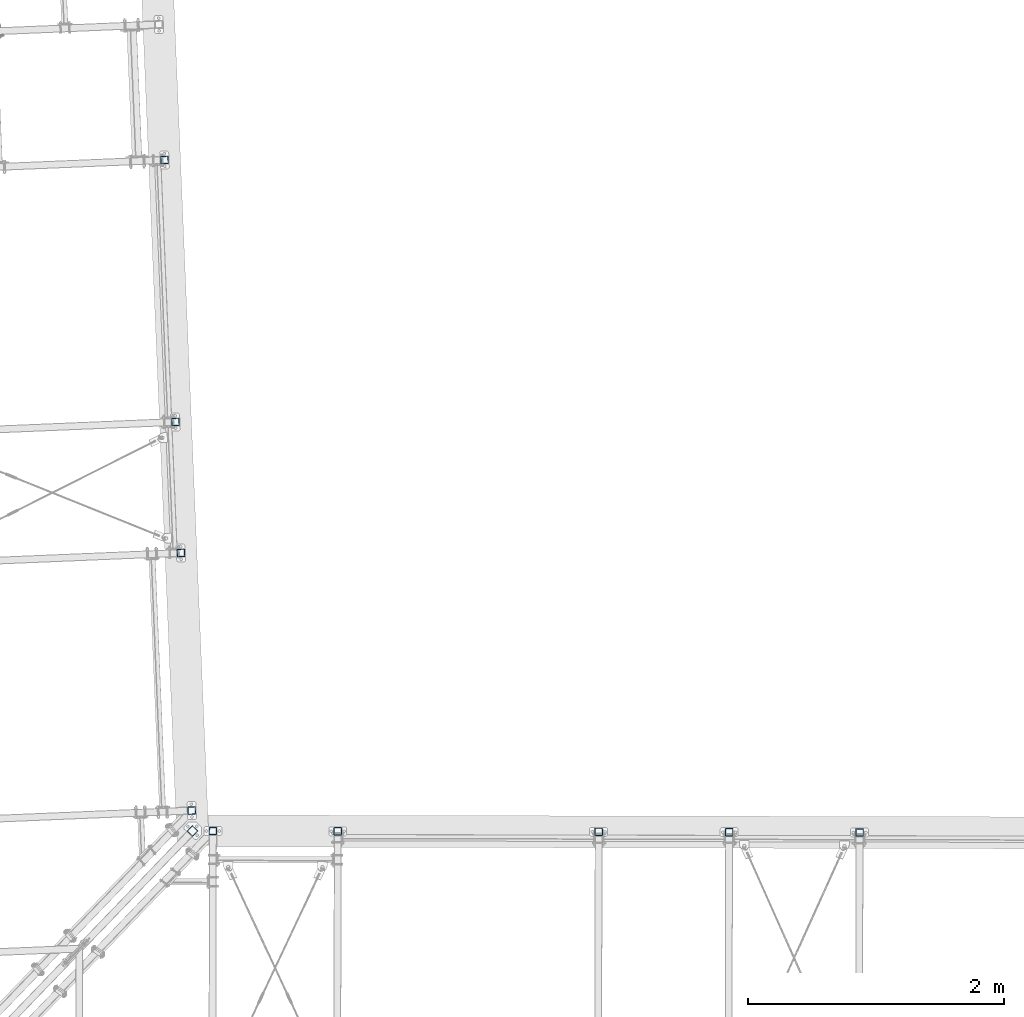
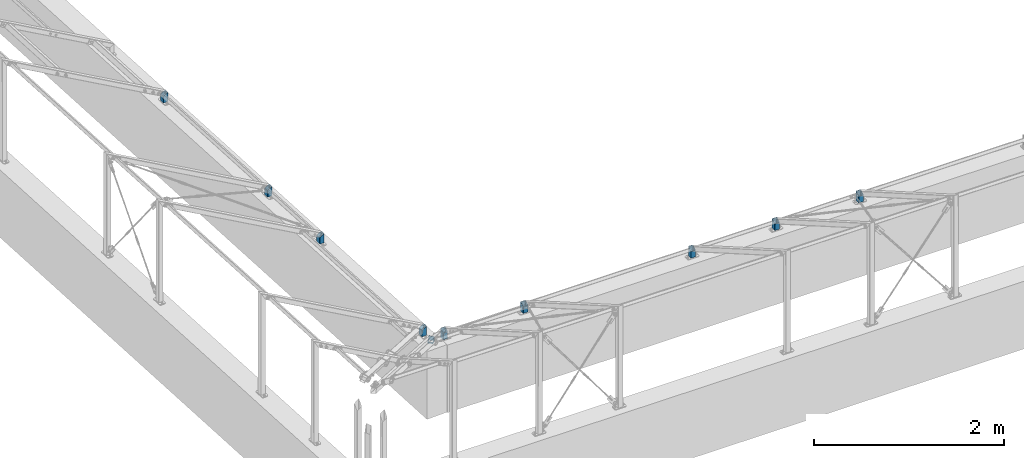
# One storey, part 6 of 288: 10 columns.
"""IFC2X3 building model written with IfcOpenShell, lengths in millimetres."""

from ifc_helpers import new_model, entity, si_unit, converted_unit, frame, origin, origin_with_axes, origin_2d, place, context, project, spatial, hollow_rectangle, extrude, clip, halfspace, material, element, save


model = new_model("IFC2X3")

# Units and contexts
model_context = context("Model", 3, precision=1e-09, world=origin_with_axes())
ifc_project = project(units=[si_unit("LENGTHUNIT", "METRE", prefix="MILLI"), si_unit("AREAUNIT", "SQUARE_METRE"), si_unit("VOLUMEUNIT", "CUBIC_METRE"), converted_unit("PLANEANGLEUNIT", "DEGREE", entity("IfcPlaneAngleMeasure", 0.01745329), si_unit("PLANEANGLEUNIT", "RADIAN"), dimensions=[0, 0, 0, 0, 0, 0, 0])], contexts=[model_context])

# Site, building, storey
site_placement = place(None, origin_with_axes())
site = spatial("IfcSite", under=ifc_project, at=site_placement, Name="Remont ?wietlik?w nad MC w NCPP w Opolu", CompositionType="ELEMENT")
building_placement = place(site_placement, origin_with_axes())
building = spatial("IfcBuilding", under=site, at=building_placement, Name="Konstrukcja 1", CompositionType="ELEMENT")
storey_placement = place(building_placement, origin_with_axes())
storey = spatial("IfcBuildingStorey", under=building, at=storey_placement, Name="Default Storey", CompositionType="ELEMENT", Elevation=0.0)

# Columns
ifc_material = material(Name="S235")
column_1_placement = place(None, frame((1589.266748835, 7123.989413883, -42.426406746), z_axis=(0.0, 0.0, -1.0), x_axis=(0.999131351, 0.041671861, 0.0)))
element("IfcColumn", 1, at=column_1_placement, inside=storey, material=ifc_material, Name="Horizontal_Beam", ObjectType="Horizontal_Beam", context=model_context, shape_type="Clipping", body=[
    clip(clip(extrude(hollow_rectangle(XDim=60.0, YDim=60.0, WallThickness=3.0, InnerFilletRadius=3.0, OuterFilletRadius=6.0, at=origin_2d()), origin(), (0.0, 0.0, -1.0), 201.083915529), halfspace(frame((-1461.054424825, 7051.57356567, 691.446351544), z_axis=(0.500000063, 1.22e-07, 0.866025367), x_axis=(2.44e-07, -1.0, 0.0)), True)), halfspace(frame((-1884.756130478, 7051.573462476, -52.427406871), z_axis=(0.0, 0.0, -1.0), x_axis=(0.999131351, 0.041671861, 0.0)), True)),
])
column_2_placement = place(None, frame((1674.67358683, 5076.8562692, -42.426406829), z_axis=(0.0, 0.0, -1.0), x_axis=(0.999131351, 0.041671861, 0.0)))
element("IfcColumn", 2, at=column_2_placement, inside=storey, material=ifc_material, Name="Horizontal_Beam", ObjectType="Horizontal_Beam", context=model_context, shape_type="Clipping", body=[
    clip(clip(extrude(hollow_rectangle(XDim=60.0, YDim=60.0, WallThickness=3.0, InnerFilletRadius=3.0, OuterFilletRadius=6.0, at=origin_2d()), origin(), (0.0, 0.0, -1.0), 201.083915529), halfspace(frame((-1461.072901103, 5002.65959983, 691.457306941), z_axis=(0.500000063, 1.22e-07, 0.866025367), x_axis=(2.44e-07, -1.0, 0.0)), True)), halfspace(frame((-1884.780931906, 5002.659496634, -52.427406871), z_axis=(0.0, 0.0, -1.0), x_axis=(0.999131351, 0.041671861, 0.0)), True)),
])
column_3_placement = place(None, frame((1717.377005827, 4053.289696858, -42.42640687), z_axis=(0.0, 0.0, -1.0), x_axis=(0.999131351, 0.041671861, 0.0)))
element("IfcColumn", 3, at=column_3_placement, inside=storey, material=ifc_material, Name="Horizontal_Beam", ObjectType="Horizontal_Beam", context=model_context, shape_type="Clipping", body=[
    clip(clip(extrude(hollow_rectangle(XDim=60.0, YDim=60.0, WallThickness=3.0, InnerFilletRadius=3.0, OuterFilletRadius=6.0, at=origin_2d()), origin(), (0.0, 0.0, -1.0), 201.083915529), halfspace(frame((-1461.082139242, 3978.20261691, 691.46278464), z_axis=(0.500000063, 1.22e-07, 0.866025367), x_axis=(2.44e-07, -1.0, 0.0)), True)), halfspace(frame((-1884.793332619, 3978.202513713, -52.427406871), z_axis=(0.0, 0.0, -1.0), x_axis=(0.999131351, 0.041671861, 0.0)), True)),
])
column_4_placement = place(None, frame((4981.911835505, 1873.544927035, -42.42640677), z_axis=(0.0, 0.0, 1.0), x_axis=(0.002261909, 0.999997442, 0.0)))
element("IfcColumn", 4, at=column_4_placement, inside=storey, material=ifc_material, Name="Horizontal_Beam", ObjectType="Horizontal_Beam", context=model_context, shape_type="Clipping", body=[
    clip(clip(extrude(hollow_rectangle(XDim=60.0, YDim=60.0, WallThickness=3.0, InnerFilletRadius=3.0, OuterFilletRadius=6.0, at=origin_2d()), origin(), (0.0, 0.0, 1.0), 201.083915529), halfspace(frame((-1461.093775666, 4977.661405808, -691.469362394), z_axis=(0.500000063, 1.22e-07, -0.866025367), x_axis=(-2.44e-07, 1.0, 0.0)), True)), halfspace(frame((-1884.808766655, 4977.66130261, 52.427406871), z_axis=(0.0, 0.0, 1.0), x_axis=(0.002261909, -0.999997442, 0.0)), True)),
])
column_5_placement = place(None, frame((2943.003597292, 1878.126173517, -42.426406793), z_axis=(0.0, 0.0, -1.0), x_axis=(0.002261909, 0.999997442, 0.0)))
element("IfcColumn", 5, at=column_5_placement, inside=storey, material=ifc_material, Name="Horizontal_Beam", ObjectType="Horizontal_Beam", context=model_context, shape_type="Clipping", body=[
    clip(clip(extrude(hollow_rectangle(XDim=60.0, YDim=60.0, WallThickness=3.0, InnerFilletRadius=3.0, OuterFilletRadius=6.0, at=origin_2d()), origin(), (0.0, 0.0, -1.0), 201.083915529), halfspace(frame((-1461.070350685, -2938.747814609, 691.456951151), z_axis=(0.500000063, 1.22e-07, 0.866025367), x_axis=(2.44e-07, -1.0, 0.0)), True)), halfspace(frame((-1884.778176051, -2938.747917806, -52.427406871), z_axis=(0.0, 0.0, -1.0), x_axis=(0.002261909, 0.999997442, 0.0)), True)),
])
column_6_placement = place(None, frame((1801.299419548, 2040.259451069, -42.426406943), z_axis=(0.0, 0.0, -1.0), x_axis=(0.999131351, 0.041671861, 0.0)))
element("IfcColumn", 6, at=column_6_placement, inside=storey, material=ifc_material, Name="Horizontal_Beam", ObjectType="Horizontal_Beam", context=model_context, shape_type="Clipping", body=[
    clip(clip(extrude(hollow_rectangle(XDim=60.0, YDim=60.0, WallThickness=3.0, InnerFilletRadius=3.0, OuterFilletRadius=6.0, at=origin_2d()), origin(), (0.0, 0.0, -1.0), 201.083648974), halfspace(frame((-1461.046745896, 1963.423682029, 691.475624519), z_axis=(0.499991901, 0.0, 0.86603008), x_axis=(0.0, -1.0, 0.0)), True)), halfspace(frame((-1884.756130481, 1963.423682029, -52.427406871), z_axis=(0.0, 0.0, -1.0), x_axis=(0.999131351, 0.041671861, 0.0)), True)),
])
column_7_placement = place(None, frame((6001.367244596, 1871.231357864, -42.426406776), z_axis=(0.0, 0.0, -1.0), x_axis=(0.002261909, 0.999997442, 0.0)))
element("IfcColumn", 7, at=column_7_placement, inside=storey, material=ifc_material, Name="Horizontal_Beam", ObjectType="Horizontal_Beam", context=model_context, shape_type="Clipping", body=[
    clip(clip(extrude(hollow_rectangle(XDim=60.0, YDim=60.0, WallThickness=3.0, InnerFilletRadius=3.0, OuterFilletRadius=6.0, at=origin_2d()), origin(), (0.0, 0.0, -1.0), 201.083915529), halfspace(frame((-1461.087371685, -5997.119233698, 691.467208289), z_axis=(0.500000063, 1.22e-07, 0.866025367), x_axis=(2.44e-07, -1.0, 0.0)), True)), halfspace(frame((-1884.801119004, -5997.119336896, -52.427406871), z_axis=(0.0, 0.0, -1.0), x_axis=(0.002261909, 0.999997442, 0.0)), True)),
])
column_8_placement = place(None, frame((7020.821793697, 1868.93308598, -42.42640677), z_axis=(0.0, 0.0, -1.0), x_axis=(0.002261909, 0.999997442, 0.0)))
element("IfcColumn", 8, at=column_8_placement, inside=storey, material=ifc_material, Name="Horizontal_Beam", ObjectType="Horizontal_Beam", context=model_context, shape_type="Clipping", body=[
    clip(clip(extrude(hollow_rectangle(XDim=60.0, YDim=60.0, WallThickness=3.0, InnerFilletRadius=3.0, OuterFilletRadius=6.0, at=origin_2d()), origin(), (0.0, 0.0, -1.0), 201.083915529), halfspace(frame((-1461.093045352, -7016.576373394, 691.470627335), z_axis=(0.500000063, 1.22e-07, 0.866025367), x_axis=(2.44e-07, -1.0, 0.0)), True)), halfspace(frame((-1884.808766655, -7016.576476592, -52.427406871), z_axis=(0.0, 0.0, -1.0), x_axis=(0.002261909, 0.999997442, 0.0)), True)),
])
column_9_placement = place(None, frame((1967.636061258, 1880.424445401, -42.426406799), z_axis=(0.0, 0.0, -1.0), x_axis=(0.002261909, 0.999997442, 0.0)))
element("IfcColumn", 9, at=column_9_placement, inside=storey, material=ifc_material, Name="Horizontal_Beam", ObjectType="Horizontal_Beam", context=model_context, shape_type="Clipping", body=[
    clip(clip(extrude(hollow_rectangle(XDim=60.0, YDim=60.0, WallThickness=3.0, InnerFilletRadius=3.0, OuterFilletRadius=6.0, at=origin_2d()), origin(), (0.0, 0.0, -1.0), 201.083915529), halfspace(frame((-1461.139464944, -1963.377575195, 691.49671714), z_axis=(0.500000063, 1.22e-07, 0.866025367), x_axis=(2.44e-07, -1.0, 0.0)), True)), halfspace(frame((-1884.870249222, -1963.377678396, -52.427406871), z_axis=(0.0, 0.0, -1.0), x_axis=(0.002261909, 0.999997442, 0.0)), True)),
])
column_10_placement = place(None, frame((1807.879578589, 1880.642552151, -42.426406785), z_axis=(0.0, 0.0, -1.0), x_axis=(0.720915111, -0.693023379, 0.0)))
element("IfcColumn", 10, at=column_10_placement, inside=storey, material=ifc_material, Name="-", ObjectType="-", context=model_context, shape_type="Clipping", body=[
    clip(clip(extrude(hollow_rectangle(XDim=60.0, YDim=60.0, WallThickness=3.0, InnerFilletRadius=3.0, OuterFilletRadius=6.0, at=origin_2d()), origin(), (0.0, 0.0, -1.0), 142.150844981), halfspace(frame((-0.02376461, 1828.151488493, 1128.92713735), z_axis=(-1.7983e-05, -0.554519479, 0.832170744), x_axis=(-0.999999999, 3.2455e-05, 0.0)), True)), halfspace(frame((0.001548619, 2608.686447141, -52.427406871), z_axis=(0.0, 0.0, -1.0), x_axis=(0.720915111, -0.693023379, 0.0)), True)),
])

save(model, "model.ifc")
